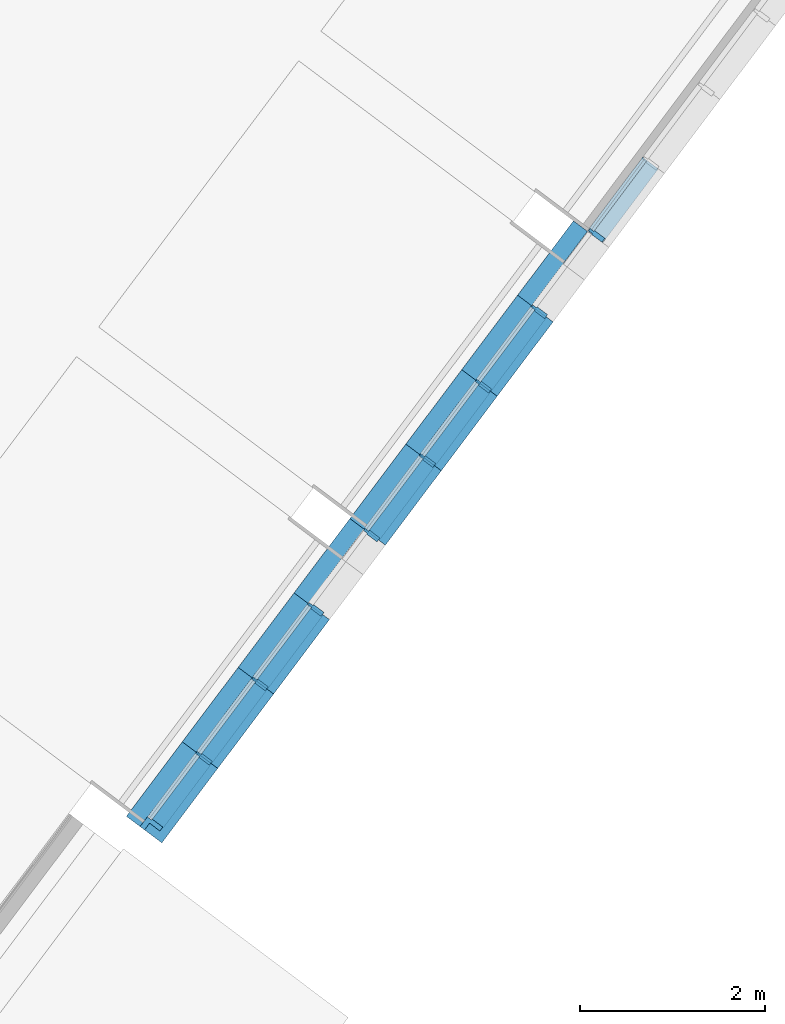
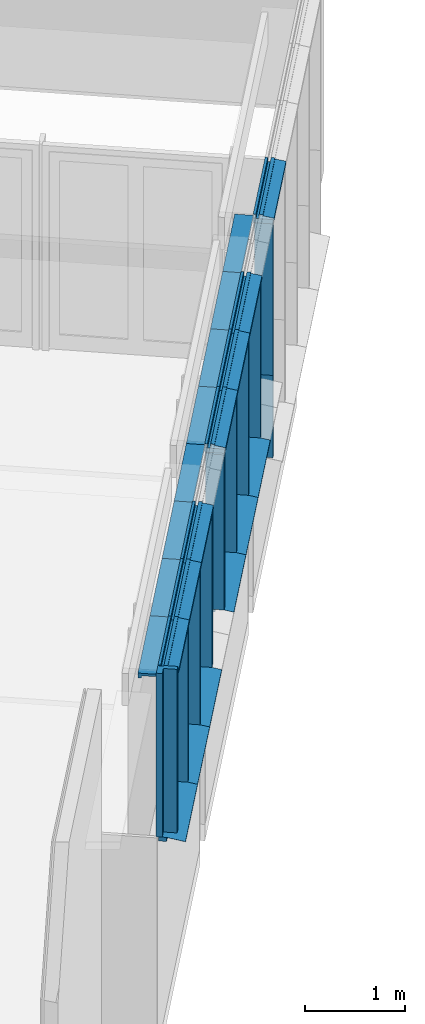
# One storey, part 1 of 15: 31 members, 3 elements without a shape of their own.
"""IFC2X3 building model written with IfcOpenShell, lengths in metres."""

from ifc_helpers import new_model, entity, si_unit, converted_unit, derived_unit, direction, frame, origin, place, context, subcontext, project, spatial, polyline, outline, extrude, source, transform, mapped, material, type_object, type_shapes, element, aggregate, save


model = new_model("IFC2X3")

# Units and contexts
model_context = context("Model", 3, precision=1e-05, world=origin(), true_north=direction((6.123031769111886e-17, 1.0)))
body_context = subcontext(model_context, "Body", "Model", "MODEL_VIEW")
ifc_project = project(units=[si_unit("LENGTHUNIT", "METRE"), si_unit("AREAUNIT", "SQUARE_METRE"), si_unit("VOLUMEUNIT", "CUBIC_METRE"), converted_unit("PLANEANGLEUNIT", "DEGREE", entity("IfcRatioMeasure", 0.017453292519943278), si_unit("PLANEANGLEUNIT", "RADIAN"), dimensions=[0, 0, 0, 0, 0, 0, 0]), si_unit("MASSUNIT", "GRAM", prefix="KILO"), derived_unit("MASSDENSITYUNIT", [(si_unit("MASSUNIT", "GRAM", prefix="KILO"), 1), (si_unit("LENGTHUNIT", "METRE"), -3)]), derived_unit("IONCONCENTRATIONUNIT", [(si_unit("MASSUNIT", "GRAM", prefix="KILO"), 1), (si_unit("LENGTHUNIT", "METRE"), -3)]), derived_unit("MOMENTOFINERTIAUNIT", [(si_unit("LENGTHUNIT", "METRE"), 4)]), si_unit("TIMEUNIT", "SECOND"), si_unit("FREQUENCYUNIT", "HERTZ"), si_unit("THERMODYNAMICTEMPERATUREUNIT", "DEGREE_CELSIUS"), derived_unit("THERMALTRANSMITTANCEUNIT", [(si_unit("MASSUNIT", "GRAM", prefix="KILO"), 1), (si_unit("THERMODYNAMICTEMPERATUREUNIT", "KELVIN"), -1), (si_unit("TIMEUNIT", "SECOND"), -3)]), derived_unit("THERMALCONDUCTANCEUNIT", [(si_unit("MASSUNIT", "GRAM", prefix="KILO"), 1), (si_unit("THERMODYNAMICTEMPERATUREUNIT", "KELVIN"), -1), (si_unit("TIMEUNIT", "SECOND"), -3), (si_unit("LENGTHUNIT", "METRE"), 1)]), derived_unit("VOLUMETRICFLOWRATEUNIT", [(si_unit("LENGTHUNIT", "METRE"), 3), (si_unit("TIMEUNIT", "SECOND"), -1)]), derived_unit("MASSFLOWRATEUNIT", [(si_unit("MASSUNIT", "GRAM", prefix="KILO"), 1), (si_unit("TIMEUNIT", "SECOND"), -1)]), derived_unit("ROTATIONALFREQUENCYUNIT", [(si_unit("TIMEUNIT", "SECOND"), -1)]), si_unit("ELECTRICCURRENTUNIT", "AMPERE"), si_unit("ELECTRICVOLTAGEUNIT", "VOLT"), si_unit("POWERUNIT", "WATT"), si_unit("FORCEUNIT", "NEWTON", prefix="KILO"), si_unit("ILLUMINANCEUNIT", "LUX"), si_unit("LUMINOUSFLUXUNIT", "LUMEN"), si_unit("LUMINOUSINTENSITYUNIT", "CANDELA"), derived_unit("USERDEFINED", [(si_unit("MASSUNIT", "GRAM", prefix="KILO"), -1), (si_unit("LENGTHUNIT", "METRE"), -2), (si_unit("TIMEUNIT", "SECOND"), 3), (si_unit("LUMINOUSFLUXUNIT", "LUMEN"), 1)]), derived_unit("USERDEFINED", [(si_unit("MASSUNIT", "GRAM", prefix="KILO"), 1), (si_unit("TIMEUNIT", "SECOND"), -3), (si_unit("LENGTHUNIT", "METRE"), 3), (si_unit("ELECTRICCURRENTUNIT", "AMPERE"), -2)]), derived_unit("SOUNDPOWERUNIT", [(si_unit("MASSUNIT", "GRAM", prefix="KILO"), 1), (si_unit("TIMEUNIT", "SECOND"), -3), (si_unit("LENGTHUNIT", "METRE"), 2)]), derived_unit("SOUNDPRESSUREUNIT", [(si_unit("MASSUNIT", "GRAM", prefix="KILO"), 1), (si_unit("LENGTHUNIT", "METRE"), -1), (si_unit("TIMEUNIT", "SECOND"), -2)]), derived_unit("LINEARVELOCITYUNIT", [(si_unit("LENGTHUNIT", "METRE"), 1), (si_unit("TIMEUNIT", "SECOND"), -1)]), si_unit("PRESSUREUNIT", "PASCAL"), derived_unit("USERDEFINED", [(si_unit("MASSUNIT", "GRAM", prefix="KILO"), 1), (si_unit("LENGTHUNIT", "METRE"), -2), (si_unit("TIMEUNIT", "SECOND"), -2)]), derived_unit("LINEARFORCEUNIT", [(si_unit("MASSUNIT", "GRAM", prefix="KILO"), 1), (si_unit("TIMEUNIT", "SECOND"), -2)]), derived_unit("PLANARFORCEUNIT", [(si_unit("MASSUNIT", "GRAM", prefix="KILO"), 1), (si_unit("LENGTHUNIT", "METRE"), -1), (si_unit("TIMEUNIT", "SECOND"), -2)]), derived_unit("SPECIFICHEATCAPACITYUNIT", [(si_unit("THERMODYNAMICTEMPERATUREUNIT", "KELVIN"), -1), (si_unit("LENGTHUNIT", "METRE"), 2), (si_unit("TIMEUNIT", "SECOND"), -2)]), derived_unit("HEATINGVALUEUNIT", [(si_unit("LENGTHUNIT", "METRE"), 2), (si_unit("TIMEUNIT", "SECOND"), -2)]), derived_unit("VAPORPERMEABILITYUNIT", [(si_unit("LENGTHUNIT", "METRE"), -1), (si_unit("TIMEUNIT", "SECOND"), 1)]), derived_unit("DYNAMICVISCOSITYUNIT", [(si_unit("MASSUNIT", "GRAM", prefix="KILO"), 1), (si_unit("TIMEUNIT", "SECOND"), -1), (si_unit("LENGTHUNIT", "METRE"), -1)]), derived_unit("THERMALEXPANSIONCOEFFICIENTUNIT", [(si_unit("THERMODYNAMICTEMPERATUREUNIT", "KELVIN"), -1)]), derived_unit("MODULUSOFELASTICITYUNIT", [(si_unit("MASSUNIT", "GRAM", prefix="KILO"), 1), (si_unit("LENGTHUNIT", "METRE"), -1), (si_unit("TIMEUNIT", "SECOND"), -2)]), derived_unit("ISOTHERMALMOISTURECAPACITYUNIT", [(si_unit("LENGTHUNIT", "METRE"), 3), (si_unit("MASSUNIT", "GRAM", prefix="KILO"), -1)]), derived_unit("MOISTUREDIFFUSIVITYUNIT", [(si_unit("TIMEUNIT", "SECOND"), -1), (si_unit("LENGTHUNIT", "METRE"), 2)])], contexts=[model_context])

# Site, building, storey
site_placement = place(None, frame((0.0, 0.0, 235.0), z_axis=(0.0, 0.0, 1.0), x_axis=(-0.7996477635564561, 0.6004693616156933, 0.0)))
site = spatial("IfcSite", under=ifc_project, at=site_placement, Name="Default", CompositionType="ELEMENT")
building_placement = place(site_placement, origin())
building = spatial("IfcBuilding", under=site, at=building_placement, CompositionType="ELEMENT")
storey_placement = place(building_placement, frame((0.0, 0.0, -5.4499999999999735)))
storey = spatial("IfcBuildingStorey", under=building, at=storey_placement, Name="PS1- Gimnàs", CompositionType="ELEMENT", Elevation=-5.4499999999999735)

# Curtain wall, members
curtain_wall_type_1 = type_object("IfcCurtainWallType", Name="Muro cortina:MC- EXT- MCv1- lateral", PredefinedType="NOTDEFINED")
curtain_wall_1_placement = place(storey_placement, frame((0.0, 0.0, 5.4499999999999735)))
curtain_wall_1 = element("IfcCurtainWall", 1, at=curtain_wall_1_placement, inside=storey, type_object=curtain_wall_type_1, Name="Muro cortina:MC- EXT- MCv1- lateral", ObjectType="Muro cortina:MC- EXT- MCv1- lateral")
ifc_material_1 = material(Name="_Alumini- T1- Perfil")
member_type_1 = type_object("IfcMemberType", Name="Montante rectangular:MC- Alu- 210x50 cm- Gimnas- Superior", PredefinedType="MULLION", material=ifc_material_1)
shared_shape_1 = source(origin(), body_context, "Body", "SweptSolid", [
    extrude(outline(polyline([(-0.09008951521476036, -0.0692243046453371), (0.10991048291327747, -0.0692243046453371), (0.10991048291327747, -0.016724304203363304), (-0.027089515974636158, -0.016724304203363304), (-0.027089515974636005, 0.030275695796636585), (0.006151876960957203, 0.030275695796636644), (0.006151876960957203, 0.01801675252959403), (0.11816142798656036, -0.0017335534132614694), (0.11816142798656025, -0.029506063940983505), (0.12116142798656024, -0.029506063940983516), (0.12116142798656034, 0.0007837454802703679), (0.009151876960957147, 0.020534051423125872), (0.009151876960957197, 0.033275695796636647), (-0.030089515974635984, 0.03327569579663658), (-0.030089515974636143, -0.016724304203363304), (-0.0620895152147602, -0.016724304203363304), (-0.06208951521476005, 0.03327569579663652), (-0.09008951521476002, 0.03327569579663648), (-0.09008951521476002, 0.030275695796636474), (-0.06508951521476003, 0.03027569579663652), (-0.06508951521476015, -0.013724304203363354), (-0.09008951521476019, -0.01372430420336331), (-0.09008951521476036, -0.0692243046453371)])), frame((-0.03327569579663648, -0.030089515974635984, -0.8637752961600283), z_axis=(0.0, 0.0, 1.0), x_axis=(0.0, -1.0, 0.0)), (0.0, 0.0, 1.0), 0.8637752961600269),
])
type_shapes(member_type_1, [shared_shape_1])
member_1_placement = place(curtain_wall_1_placement, frame((3.0851476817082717, -26.482489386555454, -0.7900000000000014), z_axis=(0.0, 1.0, 0.0), x_axis=(0.0, 0.0, 1.0)))
member_1 = element("IfcMember", 2, at=member_1_placement, type_object=member_type_1, material=ifc_material_1, Name="Montante rectangular:MC- Alu- 210x50 cm- Gimnas- Superior", ObjectType="Montante rectangular:MC- Alu- 210x50 cm- Gimnas- Superior", context=body_context, shape_type="MappedRepresentation", body=[
    mapped(shared_shape_1, transform((0.0, 0.0, 0.0), scale=1.0)),
])
member_type_2 = type_object("IfcMemberType", Name="Montante rectangular:MC- Alu- 210x50 cm- Gimnas- Superior", PredefinedType="MULLION", material=ifc_material_1)
shared_shape_2 = source(origin(), body_context, "Body", "SweptSolid", [
    extrude(outline(polyline([(-0.09008951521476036, -0.0692243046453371), (0.10991048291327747, -0.0692243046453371), (0.10991048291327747, -0.016724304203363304), (-0.027089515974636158, -0.016724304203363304), (-0.027089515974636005, 0.030275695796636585), (0.006151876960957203, 0.030275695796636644), (0.006151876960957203, 0.01801675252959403), (0.11816142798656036, -0.0017335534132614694), (0.11816142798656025, -0.029506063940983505), (0.12116142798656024, -0.029506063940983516), (0.12116142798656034, 0.0007837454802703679), (0.009151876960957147, 0.020534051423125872), (0.009151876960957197, 0.033275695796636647), (-0.030089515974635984, 0.03327569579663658), (-0.030089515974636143, -0.016724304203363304), (-0.0620895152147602, -0.016724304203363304), (-0.06208951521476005, 0.03327569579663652), (-0.09008951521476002, 0.03327569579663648), (-0.09008951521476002, 0.030275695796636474), (-0.06508951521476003, 0.03027569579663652), (-0.06508951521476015, -0.013724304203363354), (-0.09008951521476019, -0.01372430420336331), (-0.09008951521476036, -0.0692243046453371)])), frame((-0.03327569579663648, -0.030089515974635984, -1.0062752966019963), z_axis=(0.0, 0.0, 1.0), x_axis=(0.0, -1.0, 0.0)), (0.0, 0.0, 1.0), 1.0062752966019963),
])
type_shapes(member_type_2, [shared_shape_2])
member_2_placement = place(curtain_wall_1_placement, frame((3.0851476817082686, -28.352539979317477, -0.7900000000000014), z_axis=(0.0, 1.0, 0.0), x_axis=(0.0, 0.0, 1.0)))
member_2 = element("IfcMember", 3, at=member_2_placement, type_object=member_type_2, material=ifc_material_1, Name="Montante rectangular:MC- Alu- 210x50 cm- Gimnas- Superior", ObjectType="Montante rectangular:MC- Alu- 210x50 cm- Gimnas- Superior", context=body_context, shape_type="MappedRepresentation", body=[
    mapped(shared_shape_2, transform((0.0, 0.0, 0.0), scale=1.0)),
])
member_3_placement = place(curtain_wall_1_placement, frame((3.085147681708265, -30.36509057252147, -0.7900000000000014), z_axis=(0.0, 1.0, 0.0), x_axis=(0.0, 0.0, 1.0)))
member_3 = element("IfcMember", 4, at=member_3_placement, type_object=member_type_2, material=ifc_material_1, Name="Montante rectangular:MC- Alu- 210x50 cm- Gimnas- Superior", ObjectType="Montante rectangular:MC- Alu- 210x50 cm- Gimnas- Superior", context=body_context, shape_type="MappedRepresentation", body=[
    mapped(shared_shape_2, transform((0.0, 0.0, 0.0), scale=1.0)),
])
member_4_placement = place(curtain_wall_1_placement, frame((3.085147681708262, -32.37764116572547, -0.7900000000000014), z_axis=(0.0, 1.0, 0.0), x_axis=(0.0, 0.0, 1.0)))
member_4 = element("IfcMember", 5, at=member_4_placement, type_object=member_type_2, material=ifc_material_1, Name="Montante rectangular:MC- Alu- 210x50 cm- Gimnas- Superior", ObjectType="Montante rectangular:MC- Alu- 210x50 cm- Gimnas- Superior", context=body_context, shape_type="MappedRepresentation", body=[
    mapped(shared_shape_2, transform((0.0, 0.0, 0.0), scale=1.0)),
])
member_5_placement = place(curtain_wall_1_placement, frame((3.08514768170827, -27.346264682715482, -0.7900000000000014), z_axis=(0.0, 1.0, 0.0), x_axis=(0.0, 0.0, 1.0)))
member_5 = element("IfcMember", 6, at=member_5_placement, type_object=member_type_2, material=ifc_material_1, Name="Montante rectangular:MC- Alu- 210x50 cm- Gimnas- Superior", ObjectType="Montante rectangular:MC- Alu- 210x50 cm- Gimnas- Superior", context=body_context, shape_type="MappedRepresentation", body=[
    mapped(shared_shape_2, transform((0.0, 0.0, 0.0), scale=1.0)),
])
member_6_placement = place(curtain_wall_1_placement, frame((3.0851476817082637, -31.37136586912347, -0.7900000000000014), z_axis=(0.0, 1.0, 0.0), x_axis=(0.0, 0.0, 1.0)))
member_6 = element("IfcMember", 7, at=member_6_placement, type_object=member_type_2, material=ifc_material_1, Name="Montante rectangular:MC- Alu- 210x50 cm- Gimnas- Superior", ObjectType="Montante rectangular:MC- Alu- 210x50 cm- Gimnas- Superior", context=body_context, shape_type="MappedRepresentation", body=[
    mapped(shared_shape_2, transform((0.0, 0.0, 0.0), scale=1.0)),
])
member_type_3 = type_object("IfcMemberType", Name="Montante rectangular:MC- Alu- 140x52,5 cm- Fa patis- Centre", PredefinedType="MULLION", material=ifc_material_1)
shared_shape_3 = source(origin(), body_context, "Body", "SweptSolid", [
    extrude(outline(polyline([(-0.021999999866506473, -0.026250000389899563), (0.11699999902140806, -0.026250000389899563), (0.11699999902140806, 0.026250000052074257), (-0.022000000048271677, 0.026250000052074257), (-0.022000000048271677, 0.015000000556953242), (-0.07299999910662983, 0.015000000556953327), (-0.07299999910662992, -0.01500000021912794), (-0.021999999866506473, -0.01500000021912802), (-0.021999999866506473, -0.026250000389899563)])), frame((0.0, -0.022999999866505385, -1.8914999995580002), z_axis=(0.0, 0.0, 1.0), x_axis=(0.0, -1.0, 0.0)), (0.0, 0.0, 1.0), 1.8914999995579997),
])
type_shapes(member_type_3, [shared_shape_3])
member_7_placement = place(curtain_wall_1_placement, frame((3.0851476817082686, -28.352539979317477, -2.783999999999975), z_axis=(0.0, 0.0, -1.0), x_axis=(0.0, 1.0, 0.0)))
member_7 = element("IfcMember", 8, at=member_7_placement, type_object=member_type_3, material=ifc_material_1, Name="Montante rectangular:MC- Alu- 140x52,5 cm- Fa patis- Centre", ObjectType="Montante rectangular:MC- Alu- 140x52,5 cm- Fa patis- Centre", context=body_context, shape_type="MappedRepresentation", body=[
    mapped(shared_shape_3, transform((0.0, 0.0, 0.0), scale=1.0)),
])
member_8_placement = place(curtain_wall_1_placement, frame((3.085147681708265, -30.36509057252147, -2.783999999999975), z_axis=(0.0, 0.0, -1.0), x_axis=(0.0, 1.0, 0.0)))
member_8 = element("IfcMember", 9, at=member_8_placement, type_object=member_type_3, material=ifc_material_1, Name="Montante rectangular:MC- Alu- 140x52,5 cm- Fa patis- Centre", ObjectType="Montante rectangular:MC- Alu- 140x52,5 cm- Fa patis- Centre", context=body_context, shape_type="MappedRepresentation", body=[
    mapped(shared_shape_3, transform((0.0, 0.0, 0.0), scale=1.0)),
])
member_9_placement = place(curtain_wall_1_placement, frame((3.085147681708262, -32.37764116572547, -2.783999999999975), z_axis=(0.0, 0.0, -1.0), x_axis=(0.0, 1.0, 0.0)))
member_9 = element("IfcMember", 10, at=member_9_placement, type_object=member_type_3, material=ifc_material_1, Name="Montante rectangular:MC- Alu- 140x52,5 cm- Fa patis- Centre", ObjectType="Montante rectangular:MC- Alu- 140x52,5 cm- Fa patis- Centre", context=body_context, shape_type="MappedRepresentation", body=[
    mapped(shared_shape_3, transform((0.0, 0.0, 0.0), scale=1.0)),
])
member_10_placement = place(curtain_wall_1_placement, frame((3.08514768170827, -27.346264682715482, -2.783999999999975), z_axis=(0.0, 0.0, -1.0), x_axis=(0.0, 1.0, 0.0)))
member_10 = element("IfcMember", 11, at=member_10_placement, type_object=member_type_3, material=ifc_material_1, Name="Montante rectangular:MC- Alu- 140x52,5 cm- Fa patis- Centre", ObjectType="Montante rectangular:MC- Alu- 140x52,5 cm- Fa patis- Centre", context=body_context, shape_type="MappedRepresentation", body=[
    mapped(shared_shape_3, transform((0.0, 0.0, 0.0), scale=1.0)),
])
member_11_placement = place(curtain_wall_1_placement, frame((3.085147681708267, -29.358815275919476, -2.783999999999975), z_axis=(0.0, 0.0, -1.0), x_axis=(0.0, 1.0, 0.0)))
member_11 = element("IfcMember", 12, at=member_11_placement, type_object=member_type_3, material=ifc_material_1, Name="Montante rectangular:MC- Alu- 140x52,5 cm- Fa patis- Centre", ObjectType="Montante rectangular:MC- Alu- 140x52,5 cm- Fa patis- Centre", context=body_context, shape_type="MappedRepresentation", body=[
    mapped(shared_shape_3, transform((0.0, 0.0, 0.0), scale=1.0)),
])
member_12_placement = place(curtain_wall_1_placement, frame((3.0851476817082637, -31.37136586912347, -2.783999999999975), z_axis=(0.0, 0.0, -1.0), x_axis=(0.0, 1.0, 0.0)))
member_12 = element("IfcMember", 13, at=member_12_placement, type_object=member_type_3, material=ifc_material_1, Name="Montante rectangular:MC- Alu- 140x52,5 cm- Fa patis- Centre", ObjectType="Montante rectangular:MC- Alu- 140x52,5 cm- Fa patis- Centre", context=body_context, shape_type="MappedRepresentation", body=[
    mapped(shared_shape_3, transform((0.0, 0.0, 0.0), scale=1.0)),
])
member_13_placement = place(curtain_wall_1_placement, frame((3.08514768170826, -33.38391646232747, -2.783999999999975), z_axis=(0.0, 0.0, -1.0), x_axis=(0.0, 1.0, 0.0)))
member_13 = element("IfcMember", 14, at=member_13_placement, type_object=member_type_3, material=ifc_material_1, Name="Montante rectangular:MC- Alu- 140x52,5 cm- Fa patis- Centre", ObjectType="Montante rectangular:MC- Alu- 140x52,5 cm- Fa patis- Centre", context=body_context, shape_type="MappedRepresentation", body=[
    mapped(shared_shape_3, transform((0.0, 0.0, 0.0), scale=1.0)),
])
member_type_4 = type_object("IfcMemberType", Name="Montante rectangular:MC- Alu- gimnàs inferior lateral", PredefinedType="MULLION", material=ifc_material_1)
shared_shape_4 = source(origin(), body_context, "Body", "SweptSolid", [
    extrude(outline(polyline([(-0.14744510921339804, -0.030634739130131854), (-0.0654451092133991, -0.030634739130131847), (0.12380638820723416, 0.005375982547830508), (0.12380638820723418, 0.01936526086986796), (0.12180638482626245, 0.019365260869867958), (0.12180638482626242, 0.0070313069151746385), (-0.06544510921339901, -0.028598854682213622), (-0.06544510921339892, 0.019365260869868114), (-0.14744510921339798, 0.01936526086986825), (-0.14744510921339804, -0.030634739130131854)])), frame((-0.019365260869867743, -0.11044510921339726, -1.0062752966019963), z_axis=(0.0, 0.0, 1.0), x_axis=(0.0, -1.0, 0.0)), (0.0, 0.0, 1.0), 1.0062752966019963),
])
type_shapes(member_type_4, [shared_shape_4])
member_14_placement = place(curtain_wall_1_placement, frame((3.0851476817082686, -28.352539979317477, -2.833999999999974), z_axis=(0.0, -1.0, 0.0), x_axis=(0.0, 0.0, -1.0)))
member_14 = element("IfcMember", 15, at=member_14_placement, type_object=member_type_4, material=ifc_material_1, Name="Montante rectangular:MC- Alu- gimnàs inferior lateral", ObjectType="Montante rectangular:MC- Alu- gimnàs inferior lateral", context=body_context, shape_type="MappedRepresentation", body=[
    mapped(shared_shape_4, transform((0.0, 0.0, 0.0), scale=1.0)),
])
member_15_placement = place(curtain_wall_1_placement, frame((3.085147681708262, -32.37764116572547, -2.833999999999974), z_axis=(0.0, -1.0, 0.0), x_axis=(0.0, 0.0, -1.0)))
member_15 = element("IfcMember", 16, at=member_15_placement, type_object=member_type_4, material=ifc_material_1, Name="Montante rectangular:MC- Alu- gimnàs inferior lateral", ObjectType="Montante rectangular:MC- Alu- gimnàs inferior lateral", context=body_context, shape_type="MappedRepresentation", body=[
    mapped(shared_shape_4, transform((0.0, 0.0, 0.0), scale=1.0)),
])
member_16_placement = place(curtain_wall_1_placement, frame((3.085147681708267, -29.358815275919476, -2.833999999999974), z_axis=(0.0, -1.0, 0.0), x_axis=(0.0, 0.0, -1.0)))
member_16 = element("IfcMember", 17, at=member_16_placement, type_object=member_type_4, material=ifc_material_1, Name="Montante rectangular:MC- Alu- gimnàs inferior lateral", ObjectType="Montante rectangular:MC- Alu- gimnàs inferior lateral", context=body_context, shape_type="MappedRepresentation", body=[
    mapped(shared_shape_4, transform((0.0, 0.0, 0.0), scale=1.0)),
])
member_17_placement = place(curtain_wall_1_placement, frame((3.0851476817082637, -31.37136586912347, -2.833999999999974), z_axis=(0.0, -1.0, 0.0), x_axis=(0.0, 0.0, -1.0)))
member_17 = element("IfcMember", 18, at=member_17_placement, type_object=member_type_4, material=ifc_material_1, Name="Montante rectangular:MC- Alu- gimnàs inferior lateral", ObjectType="Montante rectangular:MC- Alu- gimnàs inferior lateral", context=body_context, shape_type="MappedRepresentation", body=[
    mapped(shared_shape_4, transform((0.0, 0.0, 0.0), scale=1.0)),
])
member_18_placement = place(curtain_wall_1_placement, frame((3.08514768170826, -33.38391646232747, -2.833999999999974), z_axis=(0.0, -1.0, 0.0), x_axis=(0.0, 0.0, -1.0)))
member_18 = element("IfcMember", 19, at=member_18_placement, type_object=member_type_4, material=ifc_material_1, Name="Montante rectangular:MC- Alu- gimnàs inferior lateral", ObjectType="Montante rectangular:MC- Alu- gimnàs inferior lateral", context=body_context, shape_type="MappedRepresentation", body=[
    mapped(shared_shape_4, transform((0.0, 0.0, 0.0), scale=1.0)),
])
member_type_5 = type_object("IfcMemberType", Name="Montante rectangular:MC- Alu- gimnàs inferior lateral", PredefinedType="MULLION", material=ifc_material_1)
shared_shape_5 = source(origin(), body_context, "Body", "SweptSolid", [
    extrude(outline(polyline([(-0.14744510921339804, -0.030634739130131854), (-0.0654451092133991, -0.030634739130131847), (0.12380638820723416, 0.005375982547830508), (0.12380638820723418, 0.01936526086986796), (0.12180638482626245, 0.019365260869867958), (0.12180638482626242, 0.0070313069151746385), (-0.06544510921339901, -0.028598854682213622), (-0.06544510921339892, 0.019365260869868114), (-0.14744510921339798, 0.01936526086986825), (-0.14744510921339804, -0.030634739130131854)])), frame((-0.019365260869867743, -0.11044510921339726, -1.0062752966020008), z_axis=(0.0, 0.0, 1.0), x_axis=(0.0, -1.0, 0.0)), (0.0, 0.0, 1.0), 1.0062752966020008),
])
type_shapes(member_type_5, [shared_shape_5])
member_19_placement = place(curtain_wall_1_placement, frame((3.08514768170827, -27.346264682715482, -2.833999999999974), z_axis=(0.0, -1.0, 0.0), x_axis=(0.0, 0.0, -1.0)))
member_19 = element("IfcMember", 20, at=member_19_placement, type_object=member_type_5, material=ifc_material_1, Name="Montante rectangular:MC- Alu- gimnàs inferior lateral", ObjectType="Montante rectangular:MC- Alu- gimnàs inferior lateral", context=body_context, shape_type="MappedRepresentation", body=[
    mapped(shared_shape_5, transform((0.0, 0.0, 0.0), scale=1.0)),
])
member_type_6 = type_object("IfcMemberType", Name="Montante rectangular:MC- Alu- 210x50 cm- Gimnas- Esquerra", PredefinedType="MULLION", material=ifc_material_1)
shared_shape_6 = source(origin(), body_context, "Body", "SweptSolid", [
    extrude(outline(polyline([(-0.019499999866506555, -0.051562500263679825), (0.11949999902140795, -0.051562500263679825), (0.11949999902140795, 0.0009375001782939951), (-0.019500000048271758, 0.0009375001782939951), (-0.019500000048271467, 0.090937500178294), (-0.0804999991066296, 0.09093750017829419), (-0.08049999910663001, -0.04031250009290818), (-0.019499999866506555, -0.04031250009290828), (-0.019499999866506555, -0.051562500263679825)])), frame((-0.090937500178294, -0.020499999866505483, -1.9939999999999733), z_axis=(0.0, 0.0, 1.0), x_axis=(0.0, -1.0, 0.0)), (0.0, 0.0, 1.0), 1.9939999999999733),
])
type_shapes(member_type_6, [shared_shape_6])
member_20_placement = place(curtain_wall_1_placement, frame((3.0851476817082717, -26.33998938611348, -2.783999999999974), z_axis=(0.0, 0.0, -1.0), x_axis=(0.0, 1.0, 0.0)))
member_20 = element("IfcMember", 21, at=member_20_placement, type_object=member_type_6, material=ifc_material_1, Name="Montante rectangular:MC- Alu- 210x50 cm- Gimnas- Esquerra", ObjectType="Montante rectangular:MC- Alu- 210x50 cm- Gimnas- Esquerra", context=body_context, shape_type="MappedRepresentation", body=[
    mapped(shared_shape_6, transform((0.0, 0.0, 0.0), scale=1.0)),
])
aggregate(curtain_wall_1, [member_1, member_2, member_3, member_4, member_5, member_6, member_7, member_8, member_9, member_10, member_11, member_12, member_13, member_14, member_15, member_19, member_16, member_17, member_18, member_20])

curtain_wall_type_2 = type_object("IfcCurtainWallType", Name="Muro cortina:MC- EXT- MCv1- lateral 2", PredefinedType="NOTDEFINED")
curtain_wall_2_placement = place(storey_placement, frame((0.0, 0.0, 5.4499999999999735)))
curtain_wall_2 = element("IfcCurtainWall", 22, at=curtain_wall_2_placement, inside=storey, type_object=curtain_wall_type_2, Name="Muro cortina:MC- EXT- MCv1- lateral 2", ObjectType="Muro cortina:MC- EXT- MCv1- lateral 2")
ifc_material_2 = material(Name="_Fusta massisa- T1")
member_type_7 = type_object("IfcMemberType", Name="Montante rectangular:MC- fusta- prestage", PredefinedType="MULLION", material=ifc_material_2)
shared_shape_7 = source(origin(), body_context, "Body", "SweptSolid", [
    extrude(outline(polyline([(-0.07466860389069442, -0.02999735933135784), (-0.039668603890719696, -0.02999735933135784), (-0.0396686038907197, 2.6394095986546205e-06), (0.11433720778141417, 2.6394095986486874e-06), (0.11433720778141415, 0.02999471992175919), (-0.07466860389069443, 0.029994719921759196), (-0.07466860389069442, -0.02999735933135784)])), frame((5.275925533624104e-06, 0.17033720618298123, -1.0062752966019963), z_axis=(0.0, 0.0, 1.0), x_axis=(0.0, -1.0, 0.0)), (0.0, 0.0, 1.0), 1.0062752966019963),
])
type_shapes(member_type_7, [shared_shape_7])
member_21_placement = place(curtain_wall_2_placement, frame((3.08514768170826, -33.38391646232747, -0.8339999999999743), z_axis=(0.0, 1.0, 0.0), x_axis=(0.0, 0.0, 1.0)))
member_21 = element("IfcMember", 23, at=member_21_placement, type_object=member_type_7, material=ifc_material_2, Name="Montante rectangular:MC- fusta- prestage", ObjectType="Montante rectangular:MC- fusta- prestage", context=body_context, shape_type="MappedRepresentation", body=[
    mapped(shared_shape_7, transform((0.0, 0.0, 0.0), scale=1.0)),
])
member_type_8 = type_object("IfcMemberType", Name="Montante rectangular:MC- fusta- prestage", PredefinedType="MULLION", material=ifc_material_2)
shared_shape_8 = source(origin(), body_context, "Body", "SweptSolid", [
    extrude(outline(polyline([(-0.07466860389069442, -0.02999735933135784), (-0.039668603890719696, -0.02999735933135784), (-0.0396686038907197, 2.6394095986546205e-06), (0.11433720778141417, 2.6394095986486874e-06), (0.11433720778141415, 0.02999471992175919), (-0.07466860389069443, 0.029994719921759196), (-0.07466860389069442, -0.02999735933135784)])), frame((5.275925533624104e-06, 0.17033720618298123, -1.0062752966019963), z_axis=(0.0, 0.0, 1.0), x_axis=(0.0, -1.0, 0.0)), (0.0, 0.0, 1.0), 1.0062752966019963),
])
type_shapes(member_type_8, [shared_shape_8])
member_22_placement = place(curtain_wall_2_placement, frame((3.08514768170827, -27.346264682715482, -0.8339999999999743), z_axis=(0.0, 1.0, 0.0), x_axis=(0.0, 0.0, 1.0)))
member_22 = element("IfcMember", 24, at=member_22_placement, type_object=member_type_8, material=ifc_material_2, Name="Montante rectangular:MC- fusta- prestage", ObjectType="Montante rectangular:MC- fusta- prestage", context=body_context, shape_type="MappedRepresentation", body=[
    mapped(shared_shape_8, transform((0.0, 0.0, 0.0), scale=1.0)),
])
member_23_placement = place(curtain_wall_2_placement, frame((3.085147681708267, -29.35881527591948, -0.8339999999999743), z_axis=(0.0, 1.0, 0.0), x_axis=(0.0, 0.0, 1.0)))
member_23 = element("IfcMember", 25, at=member_23_placement, type_object=member_type_8, material=ifc_material_2, Name="Montante rectangular:MC- fusta- prestage", ObjectType="Montante rectangular:MC- fusta- prestage", context=body_context, shape_type="MappedRepresentation", body=[
    mapped(shared_shape_8, transform((0.0, 0.0, 0.0), scale=1.0)),
])
member_24_placement = place(curtain_wall_2_placement, frame((3.0851476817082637, -31.371365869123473, -0.8339999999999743), z_axis=(0.0, 1.0, 0.0), x_axis=(0.0, 0.0, 1.0)))
member_24 = element("IfcMember", 26, at=member_24_placement, type_object=member_type_8, material=ifc_material_2, Name="Montante rectangular:MC- fusta- prestage", ObjectType="Montante rectangular:MC- fusta- prestage", context=body_context, shape_type="MappedRepresentation", body=[
    mapped(shared_shape_8, transform((0.0, 0.0, 0.0), scale=1.0)),
])
member_25_placement = place(curtain_wall_2_placement, frame((3.0851476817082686, -28.352539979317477, -0.8339999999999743), z_axis=(0.0, 1.0, 0.0), x_axis=(0.0, 0.0, 1.0)))
member_25 = element("IfcMember", 27, at=member_25_placement, type_object=member_type_8, material=ifc_material_2, Name="Montante rectangular:MC- fusta- prestage", ObjectType="Montante rectangular:MC- fusta- prestage", context=body_context, shape_type="MappedRepresentation", body=[
    mapped(shared_shape_8, transform((0.0, 0.0, 0.0), scale=1.0)),
])
member_26_placement = place(curtain_wall_2_placement, frame((3.085147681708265, -30.365090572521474, -0.8339999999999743), z_axis=(0.0, 1.0, 0.0), x_axis=(0.0, 0.0, 1.0)))
member_26 = element("IfcMember", 28, at=member_26_placement, type_object=member_type_8, material=ifc_material_2, Name="Montante rectangular:MC- fusta- prestage", ObjectType="Montante rectangular:MC- fusta- prestage", context=body_context, shape_type="MappedRepresentation", body=[
    mapped(shared_shape_8, transform((0.0, 0.0, 0.0), scale=1.0)),
])
member_27_placement = place(curtain_wall_2_placement, frame((3.085147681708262, -32.37764116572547, -0.8339999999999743), z_axis=(0.0, 1.0, 0.0), x_axis=(0.0, 0.0, 1.0)))
member_27 = element("IfcMember", 29, at=member_27_placement, type_object=member_type_8, material=ifc_material_2, Name="Montante rectangular:MC- fusta- prestage", ObjectType="Montante rectangular:MC- fusta- prestage", context=body_context, shape_type="MappedRepresentation", body=[
    mapped(shared_shape_8, transform((0.0, 0.0, 0.0), scale=1.0)),
])
member_type_9 = type_object("IfcMemberType", Name="Montante rectangular:MC- fusta- prestage", PredefinedType="MULLION", material=ifc_material_2)
shared_shape_9 = source(origin(), body_context, "Body", "SweptSolid", [
    extrude(outline(polyline([(-0.07466860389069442, -0.02999735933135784), (-0.039668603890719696, -0.02999735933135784), (-0.0396686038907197, 2.6394095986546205e-06), (0.11433720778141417, 2.6394095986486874e-06), (0.11433720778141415, 0.02999471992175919), (-0.07466860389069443, 0.029994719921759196), (-0.07466860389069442, -0.02999735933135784)])), frame((5.275925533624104e-06, 0.17033720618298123, -1.0062752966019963), z_axis=(0.0, 0.0, 1.0), x_axis=(0.0, -1.0, 0.0)), (0.0, 0.0, 1.0), 1.0062752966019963),
])
type_shapes(member_type_9, [shared_shape_9])
member_28_placement = place(curtain_wall_2_placement, frame((3.0851476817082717, -26.339989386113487, -0.8339999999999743), z_axis=(0.0, 1.0, 0.0), x_axis=(0.0, 0.0, 1.0)))
member_28 = element("IfcMember", 30, at=member_28_placement, type_object=member_type_9, material=ifc_material_2, Name="Montante rectangular:MC- fusta- prestage", ObjectType="Montante rectangular:MC- fusta- prestage", context=body_context, shape_type="MappedRepresentation", body=[
    mapped(shared_shape_9, transform((0.0, 0.0, 0.0), scale=1.0)),
])
aggregate(curtain_wall_2, [member_21, member_22, member_23, member_24, member_28, member_25, member_26, member_27])

curtain_wall_3_placement = place(storey_placement, frame((0.0, 0.0, 5.4499999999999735)))
curtain_wall_3 = element("IfcCurtainWall", 31, at=curtain_wall_3_placement, inside=storey, type_object=curtain_wall_type_1, Name="Muro cortina:MC- EXT- MCv1- lateral", ObjectType="Muro cortina:MC- EXT- MCv1- lateral")
member_type_10 = type_object("IfcMemberType", Name="Montante rectangular:MC- Alu- 210x50 cm- Gimnas- Superior", PredefinedType="MULLION", material=ifc_material_1)
shared_shape_10 = source(origin(), body_context, "Body", "SweptSolid", [
    extrude(outline(polyline([(-0.09008951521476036, -0.06922430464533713), (0.10991048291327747, -0.06922430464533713), (0.10991048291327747, -0.016724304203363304), (-0.027089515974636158, -0.016724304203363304), (-0.027089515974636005, 0.030275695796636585), (0.006151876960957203, 0.030275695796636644), (0.006151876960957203, 0.01801675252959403), (0.11816142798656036, -0.0017335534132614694), (0.11816142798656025, -0.0295060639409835), (0.12116142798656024, -0.029506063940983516), (0.12116142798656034, 0.0007837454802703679), (0.009151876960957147, 0.020534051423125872), (0.009151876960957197, 0.033275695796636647), (-0.030089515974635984, 0.03327569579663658), (-0.030089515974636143, -0.016724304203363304), (-0.0620895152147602, -0.016724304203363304), (-0.06208951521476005, 0.03327569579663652), (-0.09008951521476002, 0.03327569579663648), (-0.09008951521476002, 0.030275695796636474), (-0.06508951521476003, 0.03027569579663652), (-0.06508951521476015, -0.013724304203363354), (-0.09008951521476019, -0.01372430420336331), (-0.09008951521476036, -0.06922430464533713)])), frame((-0.03327569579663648, -0.030089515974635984, -1.0), z_axis=(0.0, 0.0, 1.0), x_axis=(0.0, -1.0, 0.0)), (0.0, 0.0, 1.0), 0.9999999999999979),
])
type_shapes(member_type_10, [shared_shape_10])
member_29_placement = place(curtain_wall_3_placement, frame((3.085147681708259, -34.39019175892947, -0.79), z_axis=(0.0, 1.0, 0.0), x_axis=(0.0, 0.0, 1.0)))
member_29 = element("IfcMember", 32, at=member_29_placement, type_object=member_type_10, material=ifc_material_1, Name="Montante rectangular:MC- Alu- 210x50 cm- Gimnas- Superior", ObjectType="Montante rectangular:MC- Alu- 210x50 cm- Gimnas- Superior", context=body_context, shape_type="MappedRepresentation", body=[
    mapped(shared_shape_10, transform((0.0, 0.0, 0.0), scale=1.0)),
])
member_type_11 = type_object("IfcMemberType", Name="Montante rectangular:MC- Alu- 140x52,5 cm- Fa patis- Centre", PredefinedType="MULLION", material=ifc_material_1)
shared_shape_11 = source(origin(), body_context, "Body", "SweptSolid", [
    extrude(outline(polyline([(-0.021999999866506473, -0.026250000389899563), (0.11699999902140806, -0.026250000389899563), (0.11699999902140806, 0.026250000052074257), (-0.022000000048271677, 0.026250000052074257), (-0.022000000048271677, 0.015000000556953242), (-0.07299999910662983, 0.015000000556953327), (-0.07299999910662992, -0.015000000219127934), (-0.021999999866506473, -0.015000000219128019), (-0.021999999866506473, -0.026250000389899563)])), frame((-0.026250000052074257, -0.022999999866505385, -1.0040000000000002), z_axis=(0.0, 0.0, 1.0), x_axis=(0.0, -1.0, 0.0)), (0.0, 0.0, 1.0), 1.0040000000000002),
])
type_shapes(member_type_11, [shared_shape_11])
member_30_placement = place(curtain_wall_3_placement, frame((3.085147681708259, -34.39019175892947, -3.7439999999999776), z_axis=(0.0, 0.0, -1.0), x_axis=(0.0, 1.0, 0.0)))
member_30 = element("IfcMember", 33, at=member_30_placement, type_object=member_type_11, material=ifc_material_1, Name="Montante rectangular:MC- Alu- 140x52,5 cm- Fa patis- Centre", ObjectType="Montante rectangular:MC- Alu- 140x52,5 cm- Fa patis- Centre", context=body_context, shape_type="MappedRepresentation", body=[
    mapped(shared_shape_11, transform((0.0, 0.0, 0.0), scale=1.0)),
])
member_type_12 = type_object("IfcMemberType", Name="Montante rectangular:MC- Alu- 140x52,5 cm- Fa patis- Centre", PredefinedType="MULLION", material=ifc_material_1)
shared_shape_12 = source(origin(), body_context, "Body", "SweptSolid", [
    extrude(outline(polyline([(-0.021999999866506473, -0.026250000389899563), (0.11699999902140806, -0.026250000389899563), (0.11699999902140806, 0.026250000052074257), (-0.022000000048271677, 0.026250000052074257), (-0.022000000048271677, 0.015000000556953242), (-0.07299999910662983, 0.015000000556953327), (-0.07299999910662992, -0.015000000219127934), (-0.021999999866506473, -0.015000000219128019), (-0.021999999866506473, -0.026250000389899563)])), frame((-0.026250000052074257, -0.022999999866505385, -1.8474999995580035), z_axis=(0.0, 0.0, 1.0), x_axis=(0.0, -1.0, 0.0)), (0.0, 0.0, 1.0), 1.8474999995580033),
])
type_shapes(member_type_12, [shared_shape_12])
member_31_placement = place(curtain_wall_3_placement, frame((3.085147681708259, -34.39019175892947, -2.7399999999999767), z_axis=(0.0, 0.0, -1.0), x_axis=(0.0, 1.0, 0.0)))
member_31 = element("IfcMember", 34, at=member_31_placement, type_object=member_type_12, material=ifc_material_1, Name="Montante rectangular:MC- Alu- 140x52,5 cm- Fa patis- Centre", ObjectType="Montante rectangular:MC- Alu- 140x52,5 cm- Fa patis- Centre", context=body_context, shape_type="MappedRepresentation", body=[
    mapped(shared_shape_12, transform((0.0, 0.0, 0.0), scale=1.0)),
])
aggregate(curtain_wall_3, [member_29, member_30, member_31])

save(model, "model.ifc")
